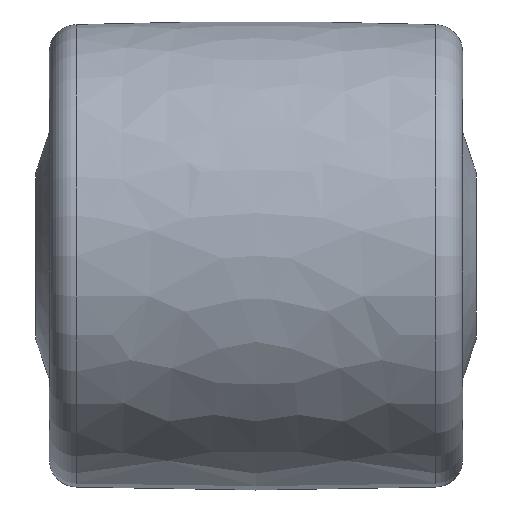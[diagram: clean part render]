
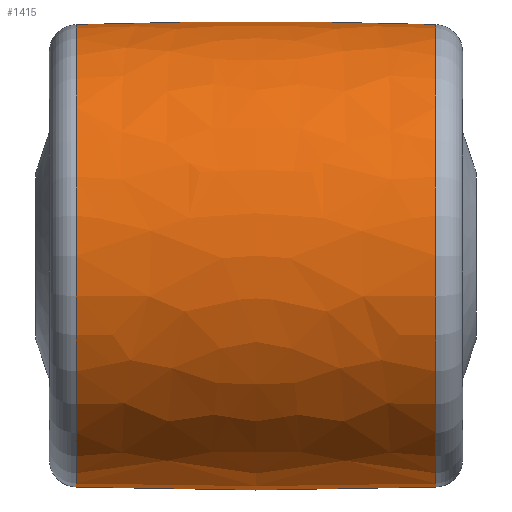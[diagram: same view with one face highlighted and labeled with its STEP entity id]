
A CAD part, front view. The second image highlights one B-rep face of the part: STEP entity #1415.
In plain terms, the highlighted free-form (B-spline) face has degree [2, 2] with [3, 9] control points.
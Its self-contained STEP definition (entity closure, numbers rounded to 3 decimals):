
#49=(
BOUNDED_SURFACE()
B_SPLINE_SURFACE(2,2,((#2486,#2487,#2488,#2489,#2490,#2491,#2492,#2493,
#2494),(#2495,#2496,#2497,#2498,#2499,#2500,#2501,#2502,#2503),(#2504,#2505,
#2506,#2507,#2508,#2509,#2510,#2511,#2512)),.UNSPECIFIED.,.F.,.T.,.F.)
B_SPLINE_SURFACE_WITH_KNOTS((3,3),(3,2,2,2,3),(-0.033,0.033),
(-3.142,-1.571,0.,1.571,3.142),
 .UNSPECIFIED.)
GEOMETRIC_REPRESENTATION_ITEM()
RATIONAL_B_SPLINE_SURFACE(((1.,0.707,1.,0.707,1.,
0.707,1.,0.707,1.),(0.999,0.707,
0.999,0.707,0.999,0.707,0.999,
0.707,0.999),(1.,0.707,1.,0.707,
1.,0.707,1.,0.707,1.)))
REPRESENTATION_ITEM('')
SURFACE()
);
#194=FACE_OUTER_BOUND('',#286,.T.);
#286=EDGE_LOOP('',(#1078,#1079,#1080,#1081,#1082,#1083));
#490=CIRCLE('',#1622,41.966);
#491=CIRCLE('',#1623,41.966);
#493=CIRCLE('',#1625,41.966);
#494=CIRCLE('',#1626,41.966);
#495=CIRCLE('',#1627,1000.);
#648=VERTEX_POINT('',#2481);
#649=VERTEX_POINT('',#2482);
#650=VERTEX_POINT('',#2513);
#651=VERTEX_POINT('',#2514);
#824=EDGE_CURVE('',#648,#649,#490,.T.);
#825=EDGE_CURVE('',#649,#648,#491,.T.);
#827=EDGE_CURVE('',#650,#651,#493,.T.);
#828=EDGE_CURVE('',#651,#650,#494,.T.);
#829=EDGE_CURVE('',#651,#649,#495,.T.);
#1078=ORIENTED_EDGE('',*,*,#827,.F.);
#1079=ORIENTED_EDGE('',*,*,#828,.F.);
#1080=ORIENTED_EDGE('',*,*,#829,.T.);
#1081=ORIENTED_EDGE('',*,*,#825,.T.);
#1082=ORIENTED_EDGE('',*,*,#824,.T.);
#1083=ORIENTED_EDGE('',*,*,#829,.F.);
#1415=ADVANCED_FACE('',(#194),#49,.F.);
#1622=AXIS2_PLACEMENT_3D('',#2483,#1953,#1954);
#1623=AXIS2_PLACEMENT_3D('',#2484,#1955,#1956);
#1625=AXIS2_PLACEMENT_3D('',#2515,#1959,#1960);
#1626=AXIS2_PLACEMENT_3D('',#2516,#1961,#1962);
#1627=AXIS2_PLACEMENT_3D('',#2517,#1963,#1964);
#1953=DIRECTION('center_axis',(1.,0.,0.));
#1954=DIRECTION('ref_axis',(0.,0.,-1.));
#1955=DIRECTION('center_axis',(1.,0.,0.));
#1956=DIRECTION('ref_axis',(0.,0.,-1.));
#1959=DIRECTION('center_axis',(1.,0.,0.));
#1960=DIRECTION('ref_axis',(0.,0.,-1.));
#1961=DIRECTION('center_axis',(1.,0.,0.));
#1962=DIRECTION('ref_axis',(0.,0.,-1.));
#1963=DIRECTION('center_axis',(0.,-1.,0.));
#1964=DIRECTION('ref_axis',(0.,0.,
1.));
#2481=CARTESIAN_POINT('',(4.837,0.,-41.966));
#2482=CARTESIAN_POINT('',(4.837,0.,41.966));
#2483=CARTESIAN_POINT('Origin',(4.837,0.,0.));
#2484=CARTESIAN_POINT('Origin',(4.837,0.,0.));
#2486=CARTESIAN_POINT('Ctrl Pts',(4.837,0.,41.966));
#2487=CARTESIAN_POINT('Ctrl Pts',(4.837,-41.966,41.966));
#2488=CARTESIAN_POINT('Ctrl Pts',(4.837,-41.966,0.));
#2489=CARTESIAN_POINT('Ctrl Pts',(4.837,-41.966,-41.966));
#2490=CARTESIAN_POINT('Ctrl Pts',(4.837,0.,-41.966));
#2491=CARTESIAN_POINT('Ctrl Pts',(4.837,41.966,-41.966));
#2492=CARTESIAN_POINT('Ctrl Pts',(4.837,41.966,0.));
#2493=CARTESIAN_POINT('Ctrl Pts',(4.837,41.966,41.966));
#2494=CARTESIAN_POINT('Ctrl Pts',(4.837,0.,41.966));
#2495=CARTESIAN_POINT('Ctrl Pts',(37.5,0.,43.034));
#2496=CARTESIAN_POINT('Ctrl Pts',(37.5,-43.034,43.034));
#2497=CARTESIAN_POINT('Ctrl Pts',(37.5,-43.034,0.));
#2498=CARTESIAN_POINT('Ctrl Pts',(37.5,-43.034,-43.034));
#2499=CARTESIAN_POINT('Ctrl Pts',(37.5,0.,-43.034));
#2500=CARTESIAN_POINT('Ctrl Pts',(37.5,43.034,-43.034));
#2501=CARTESIAN_POINT('Ctrl Pts',(37.5,43.034,0.));
#2502=CARTESIAN_POINT('Ctrl Pts',(37.5,43.034,43.034));
#2503=CARTESIAN_POINT('Ctrl Pts',(37.5,0.,43.034));
#2504=CARTESIAN_POINT('Ctrl Pts',(70.163,0.,41.966));
#2505=CARTESIAN_POINT('Ctrl Pts',(70.163,-41.966,41.966));
#2506=CARTESIAN_POINT('Ctrl Pts',(70.163,-41.966,0.));
#2507=CARTESIAN_POINT('Ctrl Pts',(70.163,-41.966,-41.966));
#2508=CARTESIAN_POINT('Ctrl Pts',(70.163,0.,-41.966));
#2509=CARTESIAN_POINT('Ctrl Pts',(70.163,41.966,-41.966));
#2510=CARTESIAN_POINT('Ctrl Pts',(70.163,41.966,0.));
#2511=CARTESIAN_POINT('Ctrl Pts',(70.163,41.966,41.966));
#2512=CARTESIAN_POINT('Ctrl Pts',(70.163,0.,41.966));
#2513=CARTESIAN_POINT('',(70.163,0.,-41.966));
#2514=CARTESIAN_POINT('',(70.163,0.,41.966));
#2515=CARTESIAN_POINT('Origin',(70.163,0.,0.));
#2516=CARTESIAN_POINT('Origin',(70.163,0.,0.));
#2517=CARTESIAN_POINT('Origin',(37.5,0.,-957.5));
